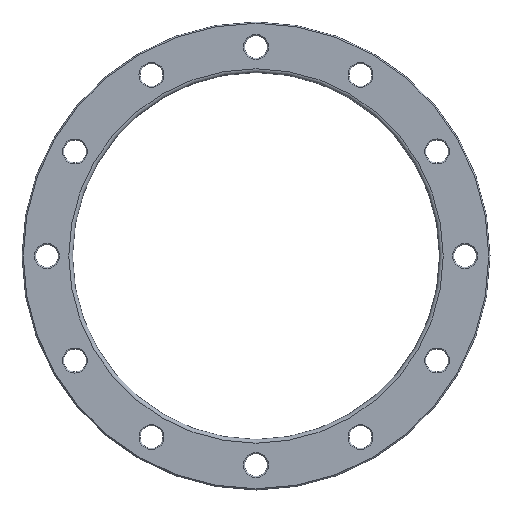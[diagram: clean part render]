
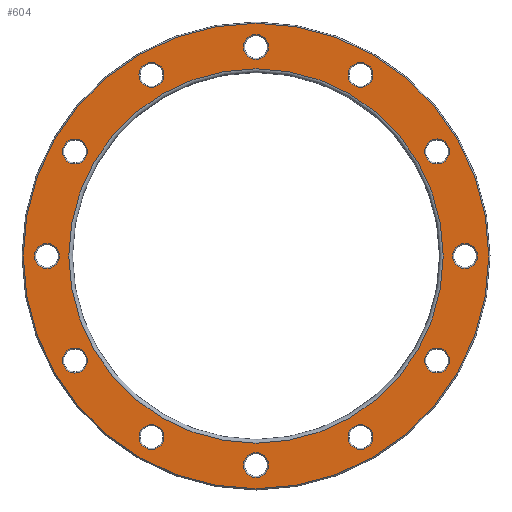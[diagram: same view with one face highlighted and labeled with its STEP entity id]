
A CAD part, front view. The second image highlights one B-rep face of the part: STEP entity #604.
In plain terms, the highlighted planar face has unit normal (0, -1, 0).
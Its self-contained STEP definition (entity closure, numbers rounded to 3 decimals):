
#23=PLANE('',#712);
#134=ORIENTED_EDGE('',*,*,#213,.T.);
#135=ORIENTED_EDGE('',*,*,#214,.T.);
#136=ORIENTED_EDGE('',*,*,#164,.T.);
#137=ORIENTED_EDGE('',*,*,#168,.T.);
#138=ORIENTED_EDGE('',*,*,#172,.T.);
#139=ORIENTED_EDGE('',*,*,#176,.T.);
#140=ORIENTED_EDGE('',*,*,#180,.T.);
#141=ORIENTED_EDGE('',*,*,#184,.T.);
#142=ORIENTED_EDGE('',*,*,#188,.T.);
#143=ORIENTED_EDGE('',*,*,#192,.T.);
#144=ORIENTED_EDGE('',*,*,#196,.T.);
#145=ORIENTED_EDGE('',*,*,#200,.T.);
#146=ORIENTED_EDGE('',*,*,#204,.T.);
#147=ORIENTED_EDGE('',*,*,#215,.T.);
#164=EDGE_CURVE('',#220,#220,#276,.T.);
#168=EDGE_CURVE('',#224,#224,#280,.T.);
#172=EDGE_CURVE('',#228,#228,#284,.T.);
#176=EDGE_CURVE('',#232,#232,#288,.T.);
#180=EDGE_CURVE('',#236,#236,#292,.T.);
#184=EDGE_CURVE('',#240,#240,#296,.T.);
#188=EDGE_CURVE('',#244,#244,#300,.T.);
#192=EDGE_CURVE('',#248,#248,#304,.T.);
#196=EDGE_CURVE('',#252,#252,#308,.T.);
#200=EDGE_CURVE('',#256,#256,#312,.T.);
#204=EDGE_CURVE('',#260,#260,#316,.T.);
#213=EDGE_CURVE('',#269,#269,#325,.F.);
#214=EDGE_CURVE('',#270,#270,#326,.T.);
#215=EDGE_CURVE('',#271,#271,#327,.T.);
#220=VERTEX_POINT('',#935);
#224=VERTEX_POINT('',#946);
#228=VERTEX_POINT('',#957);
#232=VERTEX_POINT('',#968);
#236=VERTEX_POINT('',#979);
#240=VERTEX_POINT('',#990);
#244=VERTEX_POINT('',#1001);
#248=VERTEX_POINT('',#1012);
#252=VERTEX_POINT('',#1023);
#256=VERTEX_POINT('',#1034);
#260=VERTEX_POINT('',#1045);
#269=VERTEX_POINT('',#1068);
#270=VERTEX_POINT('',#1070);
#271=VERTEX_POINT('',#1072);
#276=CIRCLE('',#629,10.);
#280=CIRCLE('',#636,10.);
#284=CIRCLE('',#643,10.);
#288=CIRCLE('',#650,10.);
#292=CIRCLE('',#657,10.);
#296=CIRCLE('',#664,10.);
#300=CIRCLE('',#671,10.);
#304=CIRCLE('',#678,10.);
#308=CIRCLE('',#685,10.);
#312=CIRCLE('',#692,10.);
#316=CIRCLE('',#699,10.);
#325=CIRCLE('',#713,186.5);
#326=CIRCLE('',#714,150.);
#327=CIRCLE('',#715,10.);
#414=EDGE_LOOP('',(#134));
#415=EDGE_LOOP('',(#135));
#416=EDGE_LOOP('',(#136));
#417=EDGE_LOOP('',(#137));
#418=EDGE_LOOP('',(#138));
#419=EDGE_LOOP('',(#139));
#420=EDGE_LOOP('',(#140));
#421=EDGE_LOOP('',(#141));
#422=EDGE_LOOP('',(#142));
#423=EDGE_LOOP('',(#143));
#424=EDGE_LOOP('',(#144));
#425=EDGE_LOOP('',(#145));
#426=EDGE_LOOP('',(#146));
#427=EDGE_LOOP('',(#147));
#526=FACE_BOUND('',#414,.T.);
#527=FACE_BOUND('',#415,.T.);
#528=FACE_BOUND('',#416,.T.);
#529=FACE_BOUND('',#417,.T.);
#530=FACE_BOUND('',#418,.T.);
#531=FACE_BOUND('',#419,.T.);
#532=FACE_BOUND('',#420,.T.);
#533=FACE_BOUND('',#421,.T.);
#534=FACE_BOUND('',#422,.T.);
#535=FACE_BOUND('',#423,.T.);
#536=FACE_BOUND('',#424,.T.);
#537=FACE_BOUND('',#425,.T.);
#538=FACE_BOUND('',#426,.T.);
#539=FACE_BOUND('',#427,.T.);
#604=ADVANCED_FACE('',(#526,#527,#528,#529,#530,#531,#532,#533,#534,#535,
#536,#537,#538,#539),#23,.F.);
#629=AXIS2_PLACEMENT_3D('',#934,#735,#736);
#636=AXIS2_PLACEMENT_3D('',#945,#749,#750);
#643=AXIS2_PLACEMENT_3D('',#956,#763,#764);
#650=AXIS2_PLACEMENT_3D('',#967,#777,#778);
#657=AXIS2_PLACEMENT_3D('',#978,#791,#792);
#664=AXIS2_PLACEMENT_3D('',#989,#805,#806);
#671=AXIS2_PLACEMENT_3D('',#1000,#819,#820);
#678=AXIS2_PLACEMENT_3D('',#1011,#833,#834);
#685=AXIS2_PLACEMENT_3D('',#1022,#847,#848);
#692=AXIS2_PLACEMENT_3D('',#1033,#861,#862);
#699=AXIS2_PLACEMENT_3D('',#1044,#875,#876);
#712=AXIS2_PLACEMENT_3D('',#1066,#901,#902);
#713=AXIS2_PLACEMENT_3D('',#1067,#903,#904);
#714=AXIS2_PLACEMENT_3D('',#1069,#905,#906);
#715=AXIS2_PLACEMENT_3D('',#1071,#907,#908);
#735=DIRECTION('',(0.,1.,0.));
#736=DIRECTION('',(0.866,0.,0.5));
#749=DIRECTION('',(0.,1.,0.));
#750=DIRECTION('',(0.5,0.,0.866));
#763=DIRECTION('',(0.,1.,0.));
#764=DIRECTION('',(0.,0.,1.));
#777=DIRECTION('',(0.,1.,0.));
#778=DIRECTION('',(-0.5,0.,0.866));
#791=DIRECTION('',(0.,1.,0.));
#792=DIRECTION('',(-0.866,0.,0.5));
#805=DIRECTION('',(0.,1.,0.));
#806=DIRECTION('',(-1.,0.,0.));
#819=DIRECTION('',(0.,1.,0.));
#820=DIRECTION('',(-0.866,0.,-0.5));
#833=DIRECTION('',(0.,1.,0.));
#834=DIRECTION('',(-0.5,0.,-0.866));
#847=DIRECTION('',(0.,1.,0.));
#848=DIRECTION('',(0.,0.,-1.));
#861=DIRECTION('',(0.,1.,0.));
#862=DIRECTION('',(0.5,0.,-0.866));
#875=DIRECTION('',(0.,1.,0.));
#876=DIRECTION('',(0.866,0.,-0.5));
#901=DIRECTION('',(0.,1.,0.));
#902=DIRECTION('',(0.,0.,1.));
#903=DIRECTION('',(0.,1.,0.));
#904=DIRECTION('',(0.,0.,1.));
#905=DIRECTION('',(0.,1.,0.));
#906=DIRECTION('',(0.,0.,1.));
#907=DIRECTION('',(0.,1.,0.));
#908=DIRECTION('',(1.,0.,0.));
#934=CARTESIAN_POINT('',(-83.75,0.,145.059));
#935=CARTESIAN_POINT('',(-75.09,0.,150.059));
#945=CARTESIAN_POINT('',(-145.059,0.,83.75));
#946=CARTESIAN_POINT('',(-140.059,0.,92.41));
#956=CARTESIAN_POINT('',(-167.5,0.,0.));
#957=CARTESIAN_POINT('',(-167.5,0.,10.));
#967=CARTESIAN_POINT('',(-145.059,0.,-83.75));
#968=CARTESIAN_POINT('',(-150.059,0.,-75.09));
#978=CARTESIAN_POINT('',(-83.75,0.,-145.059));
#979=CARTESIAN_POINT('',(-92.41,0.,-140.059));
#989=CARTESIAN_POINT('',(0.,0.,-167.5));
#990=CARTESIAN_POINT('',(-10.,0.,-167.5));
#1000=CARTESIAN_POINT('',(83.75,0.,-145.059));
#1001=CARTESIAN_POINT('',(75.09,0.,-150.059));
#1011=CARTESIAN_POINT('',(145.059,0.,-83.75));
#1012=CARTESIAN_POINT('',(140.059,0.,-92.41));
#1022=CARTESIAN_POINT('',(167.5,0.,0.));
#1023=CARTESIAN_POINT('',(167.5,0.,-10.));
#1033=CARTESIAN_POINT('',(145.059,0.,83.75));
#1034=CARTESIAN_POINT('',(150.059,0.,75.09));
#1044=CARTESIAN_POINT('',(83.75,0.,145.059));
#1045=CARTESIAN_POINT('',(92.41,0.,140.059));
#1066=CARTESIAN_POINT('',(0.,0.,0.));
#1067=CARTESIAN_POINT('',(0.,0.,0.));
#1068=CARTESIAN_POINT('',(0.,0.,186.5));
#1069=CARTESIAN_POINT('',(0.,0.,0.));
#1070=CARTESIAN_POINT('',(0.,0.,150.));
#1071=CARTESIAN_POINT('',(0.,0.,167.5));
#1072=CARTESIAN_POINT('',(10.,0.,167.5));
